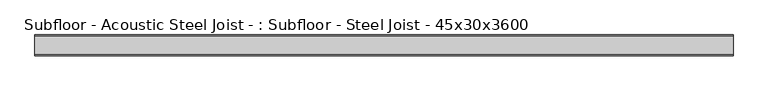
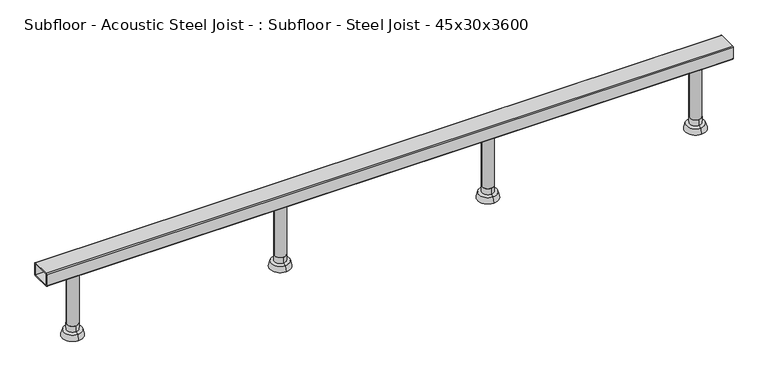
"""IFC4 building model written with IfcOpenShell, lengths in millimetres: beam geometry, Subfloor - Acoustic Steel Joist - : Subfloor - Steel Joist - 45x30x3600."""

from ifc_helpers import new_model, si_unit, point, frame, frame_2d, origin, place, context, project, spatial, polyline, circle_curve, trimmed, segment, composite_curve, outline, extrude, source, transform, mapped, element, save
from ifc_brep_helpers import plane_surface, cylinder_surface, revolved_surface, advanced_brep


def subfloor_acoustic_steel_joist_subfloor_steel_joist_4f3b908a(model_context):
    return source(origin(), model_context, "Body", "SolidModel", [
        extrude(outline(composite_curve([segment(trimmed(circle_curve(frame_2d((229.1666667, 0.0)), 12.5043167), [point((216.6623499, 0.0))], [point((241.6709834, 0.0))], False, "CARTESIAN"), True, "CONTINUOUS"), segment(trimmed(circle_curve(frame_2d((229.1666667, 0.0)), 12.5043167), [point((241.6709834, 0.0))], [point((216.6623499, 0.0))], False, "CARTESIAN"), True, "CONTINUOUS")], self_intersect=False)), frame((0.0, 0.0, -136.4999995), z_axis=(0.0, 0.0, 1.0), x_axis=(1.0, 0.0, 0.0)), (0.0, 0.0, 1.0), 121.4999995),
        advanced_brep(
        [(229.1666667, 0.0, -165.0), (229.1666667, -22.5, -165.0), (229.1666667, 22.5, -165.0), (229.1666667, 12.5043167, -136.4999995), (229.1666667, -12.5043167, -136.4999995), (229.1666667, 0.0, -136.4999995), (229.1666667, 19.5414562, -152.356555), (229.1666667, -19.5414562, -152.356555), (229.1666667, -12.5043167, -151.0618465), (229.1666667, 12.5043167, -151.0618465)],
        [
            (0, 1),
            (1, 2, circle_curve(frame((229.1666667, 0.0, -165.0), z_axis=(0.0, 0.0, -1.0), x_axis=(0.0, -1.0, 0.0)), 22.5)),
            (2, 0),
            (2, 1, circle_curve(frame((229.1666667, 0.0, -165.0), z_axis=(0.0, 0.0, -1.0), x_axis=(0.0, -1.0, 0.0)), 22.5)),
            (3, 4, circle_curve(frame((229.1666667, 0.0, -136.4999995), z_axis=(0.0, 0.0, 1.0), x_axis=(0.0, -1.0, 0.0)), 12.5043167)),
            (4, 5),
            (5, 3),
            (4, 3, circle_curve(frame((229.1666667, 0.0, -136.4999995), z_axis=(0.0, 0.0, 1.0), x_axis=(0.0, -1.0, 0.0)), 12.5043167)),
            (6, 7, circle_curve(frame((229.1666667, 0.0, -152.356555), z_axis=(0.0, 0.0, 1.0), x_axis=(0.0, -1.0, 0.0)), 19.5414562)),
            (7, 8),
            (8, 9, circle_curve(frame((229.1666667, 0.0, -151.0618465), z_axis=(0.0, 0.0, -1.0), x_axis=(0.0, -1.0, 0.0)), 12.5043167)),
            (9, 6),
            (7, 6, circle_curve(frame((229.1666667, 0.0, -152.356555), z_axis=(0.0, 0.0, 1.0), x_axis=(0.0, -1.0, 0.0)), 19.5414562)),
            (9, 8, circle_curve(frame((229.1666667, 0.0, -151.0618465), z_axis=(0.0, 0.0, -1.0), x_axis=(0.0, -1.0, 0.0)), 12.5043167)),
            (8, 4),
            (3, 9),
            (1, 7),
            (6, 2),
        ],
        [
            plane_surface(frame((229.1666667, 0.0, -165.0), z_axis=(0.0, 0.0, -1.0), x_axis=(0.0, -1.0, 0.0))),
            plane_surface(frame((229.1666667, 0.0, -136.4999995), z_axis=(0.0, 0.0, 1.0), x_axis=(0.0, -1.0, 0.0))),
            revolved_surface(polyline([(229.1666667, -12.5043167, -151.0618465), (229.1666667, -19.5414562, -152.356555)]), (229.1666667, 0.0, -170.6427452), (0.0, 0.0, -1.0)),
            cylinder_surface(frame((229.1666667, 0.0, -170.6427452), z_axis=(0.0, 0.0, -1.0), x_axis=(0.0, -1.0, 0.0)), 12.5043167),
            revolved_surface(polyline([(229.1666667, -19.5414562, -152.356555), (229.1666667, -22.5, -165.0)]), (229.1666667, 0.0, -170.6427452), (0.0, 0.0, -1.0)),
        ],
        [
            (0, [[1, 2, 3]]),
            (0, [[-3, 4, -1]]),
            (1, [[5, 6, 7]]),
            (1, [[8, -7, -6]]),
            (2, [[9, 10, 11, 12]]),
            (2, [[13, -12, 14, -10]]),
            (3, [[-11, 15, -5, 16]]),
            (3, [[-14, -16, -8, -15]]),
            (4, [[-2, 17, -9, 18]]),
            (4, [[-4, -18, -13, -17]]),
        ],
    ),
        extrude(outline(composite_curve([segment(trimmed(circle_curve(frame_2d((-229.1666667, 0.0)), 12.5043167), [point((-241.6709834, 0.0))], [point((-216.6623499, 0.0))], False, "CARTESIAN"), True, "CONTINUOUS"), segment(trimmed(circle_curve(frame_2d((-229.1666667, 0.0)), 12.5043167), [point((-216.6623499, 0.0))], [point((-241.6709834, 0.0))], False, "CARTESIAN"), True, "CONTINUOUS")], self_intersect=False)), frame((0.0, 0.0, -136.4999995), z_axis=(0.0, 0.0, 1.0), x_axis=(1.0, 0.0, 0.0)), (0.0, 0.0, 1.0), 121.4999995),
        advanced_brep(
        [(-229.1666667, 0.0, -165.0), (-229.1666667, -22.5, -165.0), (-229.1666667, 22.5, -165.0), (-229.1666667, 12.5043167, -136.4999995), (-229.1666667, -12.5043167, -136.4999995), (-229.1666667, 0.0, -136.4999995), (-229.1666667, 19.5414562, -152.356555), (-229.1666667, -19.5414562, -152.356555), (-229.1666667, -12.5043167, -151.0618465), (-229.1666667, 12.5043167, -151.0618465)],
        [
            (0, 1),
            (1, 2, circle_curve(frame((-229.1666667, 0.0, -165.0), z_axis=(0.0, 0.0, -1.0), x_axis=(0.0, -1.0, 0.0)), 22.5)),
            (2, 0),
            (2, 1, circle_curve(frame((-229.1666667, 0.0, -165.0), z_axis=(0.0, 0.0, -1.0), x_axis=(0.0, -1.0, 0.0)), 22.5)),
            (3, 4, circle_curve(frame((-229.1666667, 0.0, -136.4999995), z_axis=(0.0, 0.0, 1.0), x_axis=(0.0, -1.0, 0.0)), 12.5043167)),
            (4, 5),
            (5, 3),
            (4, 3, circle_curve(frame((-229.1666667, 0.0, -136.4999995), z_axis=(0.0, 0.0, 1.0), x_axis=(0.0, -1.0, 0.0)), 12.5043167)),
            (6, 7, circle_curve(frame((-229.1666667, 0.0, -152.356555), z_axis=(0.0, 0.0, 1.0), x_axis=(0.0, -1.0, 0.0)), 19.5414562)),
            (7, 8),
            (8, 9, circle_curve(frame((-229.1666667, 0.0, -151.0618465), z_axis=(0.0, 0.0, -1.0), x_axis=(0.0, -1.0, 0.0)), 12.5043167)),
            (9, 6),
            (7, 6, circle_curve(frame((-229.1666667, 0.0, -152.356555), z_axis=(0.0, 0.0, 1.0), x_axis=(0.0, -1.0, 0.0)), 19.5414562)),
            (9, 8, circle_curve(frame((-229.1666667, 0.0, -151.0618465), z_axis=(0.0, 0.0, -1.0), x_axis=(0.0, -1.0, 0.0)), 12.5043167)),
            (8, 4),
            (3, 9),
            (1, 7),
            (6, 2),
        ],
        [
            plane_surface(frame((-229.1666667, 0.0, -165.0), z_axis=(0.0, 0.0, -1.0), x_axis=(0.0, -1.0, 0.0))),
            plane_surface(frame((-229.1666667, 0.0, -136.4999995), z_axis=(0.0, 0.0, 1.0), x_axis=(0.0, -1.0, 0.0))),
            revolved_surface(polyline([(-229.1666667, -12.5043167, -151.0618465), (-229.1666667, -19.5414562, -152.356555)]), (-229.1666667, 0.0, -170.6427452), (0.0, 0.0, -1.0)),
            cylinder_surface(frame((-229.1666667, 0.0, -170.6427452), z_axis=(0.0, 0.0, -1.0), x_axis=(0.0, -1.0, 0.0)), 12.5043167),
            revolved_surface(polyline([(-229.1666667, -19.5414562, -152.356555), (-229.1666667, -22.5, -165.0)]), (-229.1666667, 0.0, -170.6427452), (0.0, 0.0, -1.0)),
        ],
        [
            (0, [[1, 2, 3]]),
            (0, [[-3, 4, -1]]),
            (1, [[5, 6, 7]]),
            (1, [[8, -7, -6]]),
            (2, [[9, 10, 11, 12]]),
            (2, [[13, -12, 14, -10]]),
            (3, [[-11, 15, -5, 16]]),
            (3, [[-14, -16, -8, -15]]),
            (4, [[-2, 17, -9, 18]]),
            (4, [[-4, -18, -13, -17]]),
        ],
    ),
        extrude(outline(composite_curve([segment(trimmed(circle_curve(frame_2d((687.5, 0.0)), 12.5043167), [point((674.9956833, 0.0))], [point((700.0043167, 0.0))], False, "CARTESIAN"), True, "CONTINUOUS"), segment(trimmed(circle_curve(frame_2d((687.5, 0.0)), 12.5043167), [point((700.0043167, 0.0))], [point((674.9956833, 0.0))], False, "CARTESIAN"), True, "CONTINUOUS")], self_intersect=False)), frame((0.0, 0.0, -136.4999995), z_axis=(0.0, 0.0, 1.0), x_axis=(1.0, 0.0, 0.0)), (0.0, 0.0, 1.0), 121.4999995),
        advanced_brep(
        [(687.5, 0.0, -165.0), (687.5, -22.5, -165.0), (687.5, 22.5, -165.0), (687.5, 12.5043167, -136.4999995), (687.5, -12.5043167, -136.4999995), (687.5, 0.0, -136.4999995), (687.5, 19.5414562, -152.356555), (687.5, -19.5414562, -152.356555), (687.5, -12.5043167, -151.0618465), (687.5, 12.5043167, -151.0618465)],
        [
            (0, 1),
            (1, 2, circle_curve(frame((687.5, 0.0, -165.0), z_axis=(0.0, 0.0, -1.0), x_axis=(0.0, -1.0, 0.0)), 22.5)),
            (2, 0),
            (2, 1, circle_curve(frame((687.5, 0.0, -165.0), z_axis=(0.0, 0.0, -1.0), x_axis=(0.0, -1.0, 0.0)), 22.5)),
            (3, 4, circle_curve(frame((687.5, 0.0, -136.4999995), z_axis=(0.0, 0.0, 1.0), x_axis=(0.0, -1.0, 0.0)), 12.5043167)),
            (4, 5),
            (5, 3),
            (4, 3, circle_curve(frame((687.5, 0.0, -136.4999995), z_axis=(0.0, 0.0, 1.0), x_axis=(0.0, -1.0, 0.0)), 12.5043167)),
            (6, 7, circle_curve(frame((687.5, 0.0, -152.356555), z_axis=(0.0, 0.0, 1.0), x_axis=(0.0, -1.0, 0.0)), 19.5414562)),
            (7, 8),
            (8, 9, circle_curve(frame((687.5, 0.0, -151.0618465), z_axis=(0.0, 0.0, -1.0), x_axis=(0.0, -1.0, 0.0)), 12.5043167)),
            (9, 6),
            (7, 6, circle_curve(frame((687.5, 0.0, -152.356555), z_axis=(0.0, 0.0, 1.0), x_axis=(0.0, -1.0, 0.0)), 19.5414562)),
            (9, 8, circle_curve(frame((687.5, 0.0, -151.0618465), z_axis=(0.0, 0.0, -1.0), x_axis=(0.0, -1.0, 0.0)), 12.5043167)),
            (8, 4),
            (3, 9),
            (1, 7),
            (6, 2),
        ],
        [
            plane_surface(frame((687.5, 0.0, -165.0), z_axis=(0.0, 0.0, -1.0), x_axis=(0.0, -1.0, 0.0))),
            plane_surface(frame((687.5, 0.0, -136.4999995), z_axis=(0.0, 0.0, 1.0), x_axis=(0.0, -1.0, 0.0))),
            revolved_surface(polyline([(687.5, -12.5043167, -151.0618465), (687.5, -19.5414562, -152.356555)]), (687.5, 0.0, -170.6427452), (0.0, 0.0, -1.0)),
            cylinder_surface(frame((687.5, 0.0, -170.6427452), z_axis=(0.0, 0.0, -1.0), x_axis=(0.0, -1.0, 0.0)), 12.5043167),
            revolved_surface(polyline([(687.5, -19.5414562, -152.356555), (687.5, -22.5, -165.0)]), (687.5, 0.0, -170.6427452), (0.0, 0.0, -1.0)),
        ],
        [
            (0, [[1, 2, 3]]),
            (0, [[-3, 4, -1]]),
            (1, [[5, 6, 7]]),
            (1, [[8, -7, -6]]),
            (2, [[9, 10, 11, 12]]),
            (2, [[13, -12, 14, -10]]),
            (3, [[-11, 15, -5, 16]]),
            (3, [[-14, -16, -8, -15]]),
            (4, [[-2, 17, -9, 18]]),
            (4, [[-4, -18, -13, -17]]),
        ],
    ),
        extrude(outline(composite_curve([segment(trimmed(circle_curve(frame_2d((-687.5, 0.0)), 12.5043167), [point((-700.0043167, 0.0))], [point((-674.9956833, 0.0))], False, "CARTESIAN"), True, "CONTINUOUS"), segment(trimmed(circle_curve(frame_2d((-687.5, 0.0)), 12.5043167), [point((-674.9956833, 0.0))], [point((-700.0043167, 0.0))], False, "CARTESIAN"), True, "CONTINUOUS")], self_intersect=False)), frame((0.0, 0.0, -136.4999995), z_axis=(0.0, 0.0, 1.0), x_axis=(1.0, 0.0, 0.0)), (0.0, 0.0, 1.0), 121.4999995),
        advanced_brep(
        [(-687.5, 0.0, -165.0), (-687.5, -22.5, -165.0), (-687.5, 22.5, -165.0), (-687.5, 12.5043167, -136.4999995), (-687.5, -12.5043167, -136.4999995), (-687.5, 0.0, -136.4999995), (-687.5, 19.5414562, -152.356555), (-687.5, -19.5414562, -152.356555), (-687.5, -12.5043167, -151.0618465), (-687.5, 12.5043167, -151.0618465)],
        [
            (0, 1),
            (1, 2, circle_curve(frame((-687.5, 0.0, -165.0), z_axis=(0.0, 0.0, -1.0), x_axis=(0.0, -1.0, 0.0)), 22.5)),
            (2, 0),
            (2, 1, circle_curve(frame((-687.5, 0.0, -165.0), z_axis=(0.0, 0.0, -1.0), x_axis=(0.0, -1.0, 0.0)), 22.5)),
            (3, 4, circle_curve(frame((-687.5, 0.0, -136.4999995), z_axis=(0.0, 0.0, 1.0), x_axis=(0.0, -1.0, 0.0)), 12.5043167)),
            (4, 5),
            (5, 3),
            (4, 3, circle_curve(frame((-687.5, 0.0, -136.4999995), z_axis=(0.0, 0.0, 1.0), x_axis=(0.0, -1.0, 0.0)), 12.5043167)),
            (6, 7, circle_curve(frame((-687.5, 0.0, -152.356555), z_axis=(0.0, 0.0, 1.0), x_axis=(0.0, -1.0, 0.0)), 19.5414562)),
            (7, 8),
            (8, 9, circle_curve(frame((-687.5, 0.0, -151.0618465), z_axis=(0.0, 0.0, -1.0), x_axis=(0.0, -1.0, 0.0)), 12.5043167)),
            (9, 6),
            (7, 6, circle_curve(frame((-687.5, 0.0, -152.356555), z_axis=(0.0, 0.0, 1.0), x_axis=(0.0, -1.0, 0.0)), 19.5414562)),
            (9, 8, circle_curve(frame((-687.5, 0.0, -151.0618465), z_axis=(0.0, 0.0, -1.0), x_axis=(0.0, -1.0, 0.0)), 12.5043167)),
            (8, 4),
            (3, 9),
            (1, 7),
            (6, 2),
        ],
        [
            plane_surface(frame((-687.5, 0.0, -165.0), z_axis=(0.0, 0.0, -1.0), x_axis=(0.0, -1.0, 0.0))),
            plane_surface(frame((-687.5, 0.0, -136.4999995), z_axis=(0.0, 0.0, 1.0), x_axis=(0.0, -1.0, 0.0))),
            revolved_surface(polyline([(-687.5, -12.5043167, -151.0618465), (-687.5, -19.5414562, -152.356555)]), (-687.5, 0.0, -170.6427452), (0.0, 0.0, -1.0)),
            cylinder_surface(frame((-687.5, 0.0, -170.6427452), z_axis=(0.0, 0.0, -1.0), x_axis=(0.0, -1.0, 0.0)), 12.5043167),
            revolved_surface(polyline([(-687.5, -19.5414562, -152.356555), (-687.5, -22.5, -165.0)]), (-687.5, 0.0, -170.6427452), (0.0, 0.0, -1.0)),
        ],
        [
            (0, [[1, 2, 3]]),
            (0, [[-3, 4, -1]]),
            (1, [[5, 6, 7]]),
            (1, [[8, -7, -6]]),
            (2, [[9, 10, 11, 12]]),
            (2, [[13, -12, 14, -10]]),
            (3, [[-11, 15, -5, 16]]),
            (3, [[-14, -16, -8, -15]]),
            (4, [[-2, 17, -9, 18]]),
            (4, [[-4, -18, -13, -17]]),
        ],
    ),
        extrude(outline(composite_curve([segment(polyline([(-20.5, 15.0), (20.5, 15.0)]), True, "CONTINUOUS"), segment(trimmed(circle_curve(frame_2d((20.5, 13.0)), 2.0), [point((20.5, 15.0))], [point((22.5, 13.0))], False, "CARTESIAN"), True, "CONTINUOUS"), segment(polyline([(22.5, 13.0), (22.5, -13.0)]), True, "CONTINUOUS"), segment(trimmed(circle_curve(frame_2d((20.5, -13.0)), 2.0), [point((22.5, -13.0))], [point((20.5, -15.0))], False, "CARTESIAN"), True, "CONTINUOUS"), segment(polyline([(20.5, -15.0), (-20.5, -15.0)]), True, "CONTINUOUS"), segment(trimmed(circle_curve(frame_2d((-20.5, -13.0)), 2.0), [point((-20.5, -15.0))], [point((-22.5, -13.0))], False, "CARTESIAN"), True, "CONTINUOUS"), segment(polyline([(-22.5, -13.0), (-22.5, 13.0)]), True, "CONTINUOUS"), segment(trimmed(circle_curve(frame_2d((-20.5, 13.0)), 2.0), [point((-22.5, 13.0))], [point((-20.5, 15.0))], False, "CARTESIAN"), True, "CONTINUOUS")], self_intersect=False), holes=[polyline([(-19.5, 12.0), (-19.5, -12.0), (19.5, -12.0), (19.5, 12.0), (-19.5, 12.0)])]), frame((-757.5, 0.0, 0.0), z_axis=(1.0, 0.0, 0.0), x_axis=(0.0, 1.0, 0.0)), (0.0, 0.0, 1.0), 1515.0),
    ])


if __name__ == "__main__":
    model = new_model("IFC4")
    model_context = context("Model", 3, world=origin())
    ifc_project = project(units=[si_unit("LENGTHUNIT", "METRE", prefix="MILLI")], contexts=[model_context])
    site = spatial("IfcSite", under=ifc_project)
    building = spatial("IfcBuilding", under=site)
    placement = place(None, origin())
    subfloor_acoustic_steel_joist_subfloor_steel_joist_shape = subfloor_acoustic_steel_joist_subfloor_steel_joist_4f3b908a(model_context)
    element("IfcBeam", 1, ObjectType="Subfloor - Acoustic Steel Joist - : Subfloor - Steel Joist - 45x30x3600", at=placement, inside=building, context=model_context, shape_type="MappedRepresentation", body=[
        mapped(subfloor_acoustic_steel_joist_subfloor_steel_joist_shape, transform((0.0, 0.0, 0.0), x_axis=(1.0, 0.0, 0.0), y_axis=(0.0, 1.0, 0.0), z_axis=(0.0, 0.0, 1.0))),
    ])
    save(model, "model.ifc")
